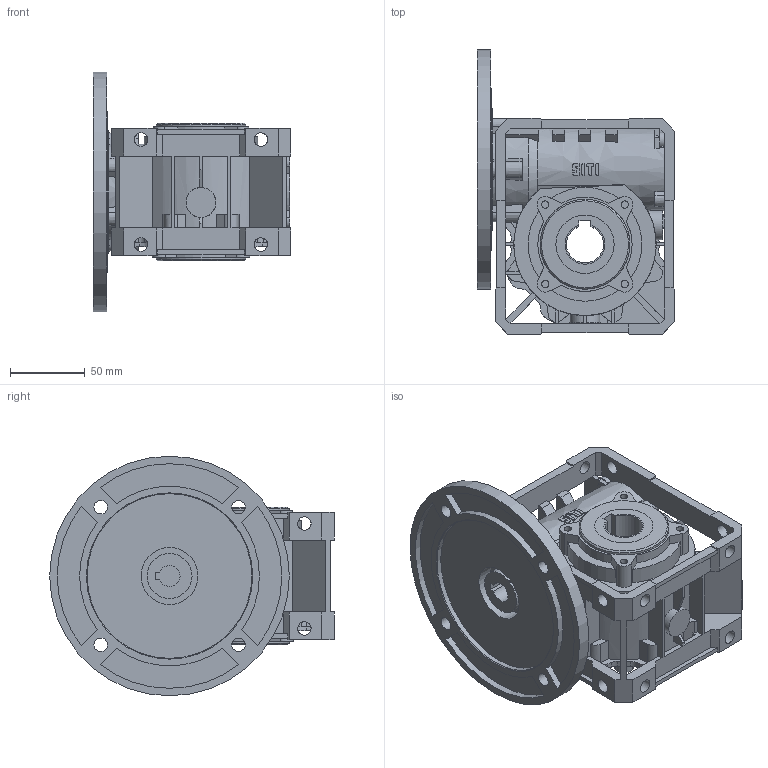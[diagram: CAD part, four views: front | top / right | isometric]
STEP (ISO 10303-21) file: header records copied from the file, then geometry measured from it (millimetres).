
FILE_DESCRIPTION (( 'STEP AP203' ), '1' );
FILE_NAME ('MU50 PAM 71 B5.STEP', '2016-03-10T08:33:37', ( 'm.piscopiello' ), ( '' ), 'SwSTEP 2.0', 'SolidWorks 2015', '' );
FILE_SCHEMA (( 'CONFIG_CONTROL_DESIGN' ));
Length unit declared in the file: millimetre
Products named in the file (1): MU50 PAM 71 B5
Bounding box: 132 x 190 x 160 mm (x, y, z)
Volume: 1024102.2 mm3; surface area: 183254 mm2
Topology: 1 solids, 7 shells, 728 faces, 2160 edges, 1424 vertices
Faces by surface type: plane 478, cylinder 202, cone 48
Full cylindrical faces by diameter (mm): 4.5 x4, 4.917 x10, 5.37 x4, 9 x18, 20 x1, 30 x1, 38 x1, 60 x2, 82 x1, 108 x1, 110 x1, 160 x1
Entity records: 26885 total; most frequent: CARTESIAN_POINT 7546, ORIENTED_EDGE 4160, DIRECTION 3801, EDGE_CURVE 2080, VERTEX_POINT 1398, VECTOR 1323, LINE 1323, AXIS2_PLACEMENT_3D 1239
